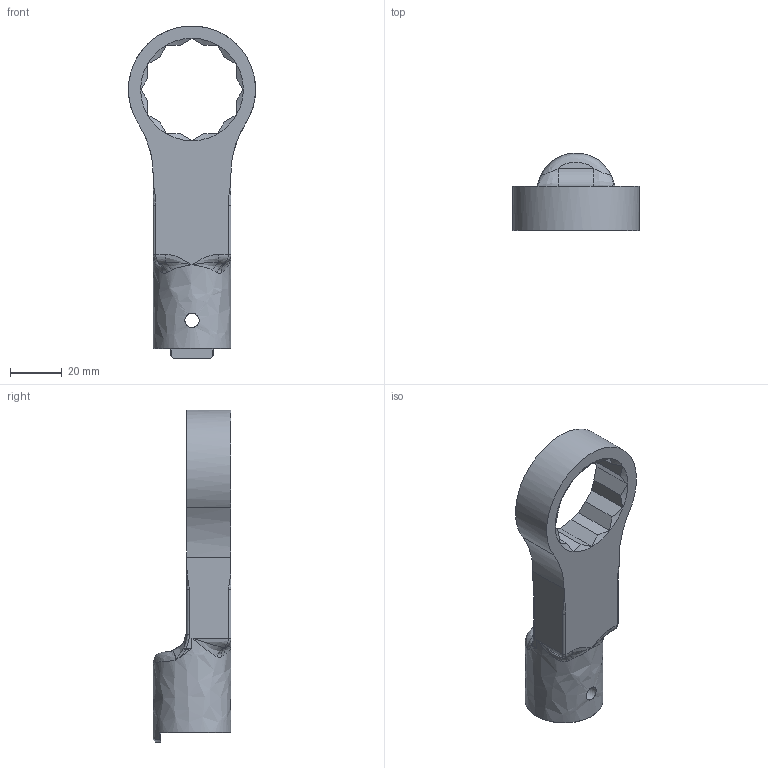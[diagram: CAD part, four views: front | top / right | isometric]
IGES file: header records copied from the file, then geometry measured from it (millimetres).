
Global section: file name: RH22DX34; native system: Autodesk Inventor 2016; preprocessor: unknown; author: Q600; date: 20151110.163146; units: millimetre
Bounding box: 49 x 30 x 127.98 mm (x, y, z)
Volume: 49644.7 mm3; surface area: 15729.1 mm2
Topology: 1 solids, 1 shells, 87 faces, 247 edges, 149 vertices
Faces by surface type: bspline 87
